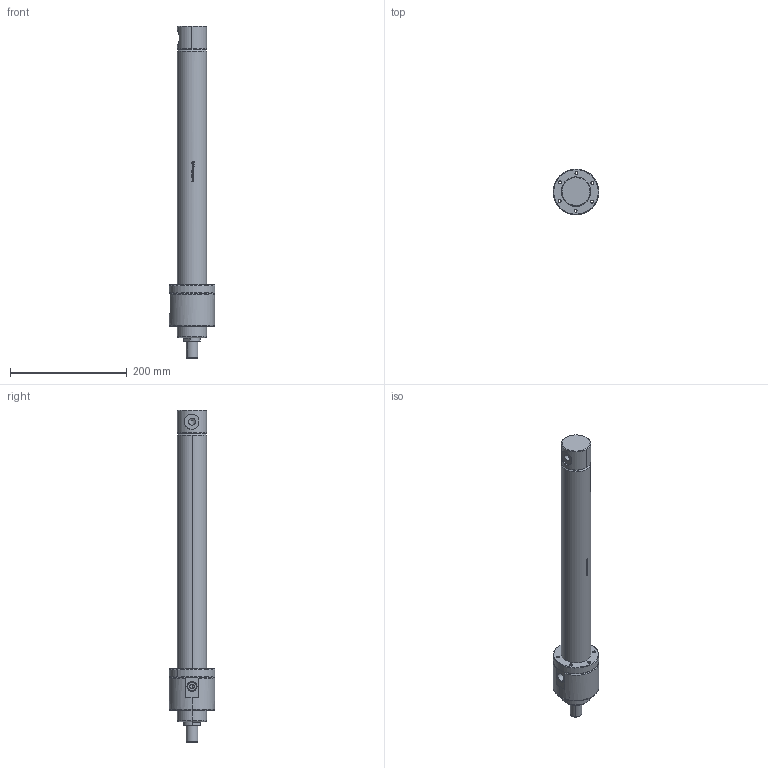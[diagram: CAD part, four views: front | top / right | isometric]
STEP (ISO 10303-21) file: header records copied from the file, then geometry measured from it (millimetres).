
FILE_DESCRIPTION (( 'STEP AP214' ), '1' );
FILE_NAME ('40_28_350_WEB.STEP', '2020-08-05T10:28:49', ( '' ), ( '' ), 'SwSTEP 2.0', 'SolidWorks 2018', '' );
FILE_SCHEMA (( 'AUTOMOTIVE_DESIGN' ));
Length unit declared in the file: millimetre
Products named in the file (11): KASTAS-K32-28X38X6; KASTAS-K06-28X36_6X5_3X7; 40_烰_KAPAK; 40_28_350_WEB; TYAK_40_50; Kastas Seals-K68-28X32X9_7; FLANS; 28_K_MIL_WEB; 40_25_HON_BORU_WEB; Assem1; KASTAS-K84-32_8X40X3_4
Assembly tree (11 placements, depth 3):
  40_28_350_WEB
    40_25_HON_BORU_WEB
    28_K_MIL_WEB
    Assem1
      40_烰_KAPAK
      KASTAS-K06-28X36_6X5_3X7
      KASTAS-K32-28X38X6
      Kastas Seals-K68-28X32X9_7  x2
      KASTAS-K84-32_8X40X3_4
    FLANS
    TYAK_40_50
Bounding box: 78 x 78 x 568 mm (x, y, z)
Volume: 677294.9 mm3; surface area: 204929.2 mm2
Topology: 10 solids, 10 shells, 483 faces, 1177 edges, 751 vertices
Faces by surface type: plane 143, cylinder 130, cone 103, bspline 103, torus 4
Entity records: 21002 total; most frequent: CARTESIAN_POINT 8059, ORIENTED_EDGE 2258, DIRECTION 2058, EDGE_CURVE 1129, AXIS2_PLACEMENT_3D 795, VERTEX_POINT 720, EDGE_LOOP 541, VECTOR 468
